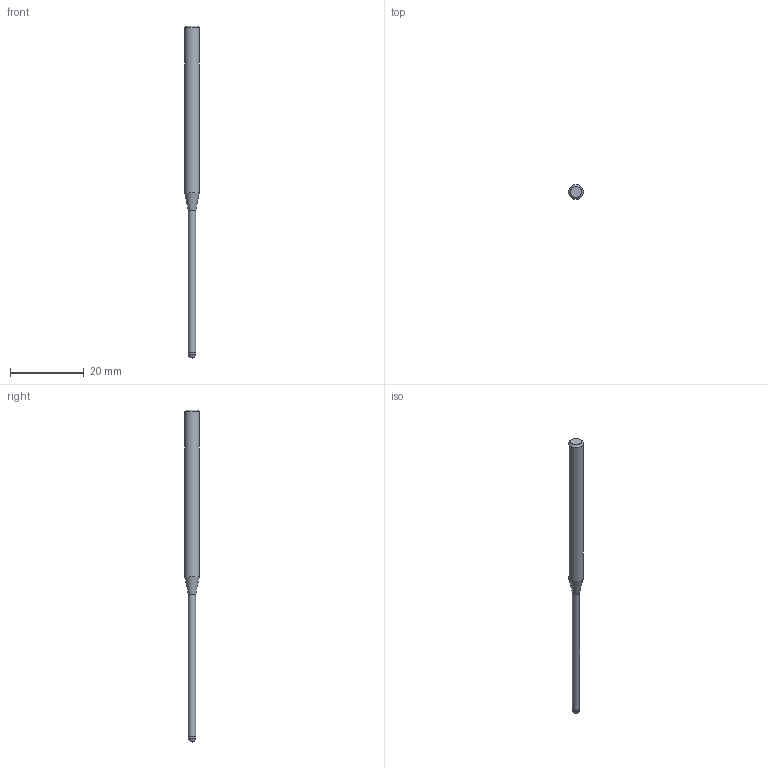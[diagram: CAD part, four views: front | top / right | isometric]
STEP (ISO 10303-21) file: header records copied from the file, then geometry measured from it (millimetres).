
FILE_DESCRIPTION((''),'2;1');
FILE_NAME('C:\Users\nsx150\AppData\Local\Temp\Mastercam 2021\3SYKECWX22\TEMP.step','2021-04-22T10:04:32',(''),(''),'STEP Write','Mastercam 2021 ... CNC Software, Inc.','');
FILE_SCHEMA(('AUTOMOTIVE_DESIGN'));
Length unit declared in the file: millimetre
Products named in the file (1): None
Bounding box: 4 x 4 x 90 mm (x, y, z)
Volume: 718.4 mm3; surface area: 872.4 mm2
Topology: 2 solids, 2 shells, 9 faces, 14 edges, 8 vertices
Faces by surface type: plane 3, cylinder 3, cone 2, sphere 1
Full cylindrical faces by diameter (mm): 1.94 x1, 2 x1, 4 x1
Entity records: 211 total; most frequent: DIRECTION 36, CARTESIAN_POINT 25, AXIS2_PLACEMENT_3D 18, ORIENTED_EDGE 14, EDGE_LOOP 14, STYLED_ITEM 12, ADVANCED_FACE 9, FACE_BOUND 8
